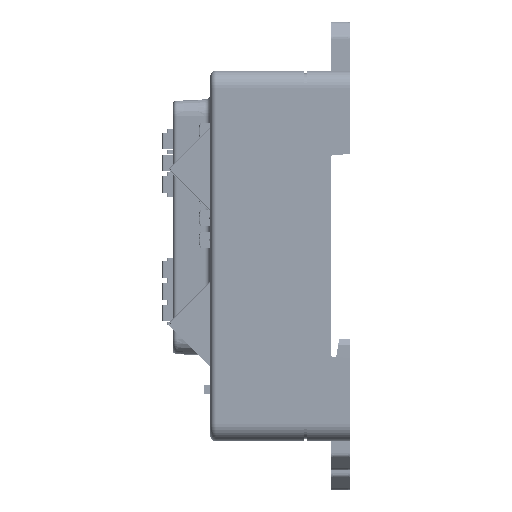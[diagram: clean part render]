
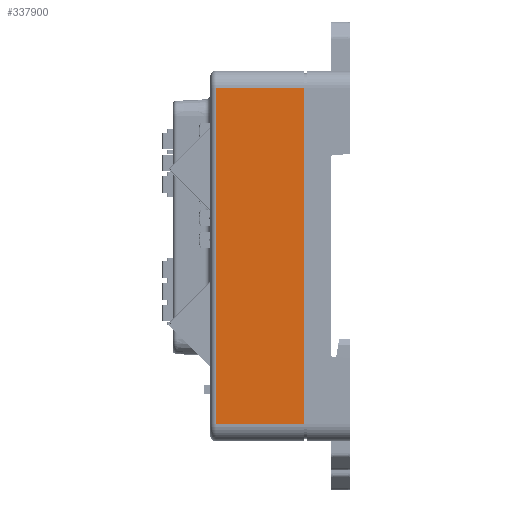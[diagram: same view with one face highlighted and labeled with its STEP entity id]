
A CAD part, left-side view. The second image highlights one B-rep face of the part: STEP entity #337900.
In plain terms, the highlighted planar face has unit normal (-1, 0, 0).
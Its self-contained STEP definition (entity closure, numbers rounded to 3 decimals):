
#6388=DIRECTION('',(0.,0.,-1.));
#6389=VECTOR('',#6388,59.);
#6390=CARTESIAN_POINT('',(-72.5,23.4,29.5));
#6391=LINE('',#6390,#6389);
#6392=DIRECTION('',(0.,-1.,0.));
#6393=VECTOR('',#6392,15.4);
#6394=CARTESIAN_POINT('',(-72.5,23.4,29.5));
#6395=LINE('',#6394,#6393);
#6396=DIRECTION('',(0.,0.,1.));
#6397=VECTOR('',#6396,59.);
#6398=CARTESIAN_POINT('',(-72.5,8.,-29.5));
#6399=LINE('',#6398,#6397);
#6415=DIRECTION('',(0.,-1.,0.));
#6416=VECTOR('',#6415,15.4);
#6417=CARTESIAN_POINT('',(-72.5,23.4,-29.5));
#6418=LINE('',#6417,#6416);
#262862=CARTESIAN_POINT('',(-72.5,8.,-29.5));
#262863=CARTESIAN_POINT('',(-72.5,8.,29.5));
#262864=VERTEX_POINT('',#262862);
#262865=VERTEX_POINT('',#262863);
#262952=CARTESIAN_POINT('',(-72.5,23.4,-29.5));
#262953=VERTEX_POINT('',#262952);
#262956=CARTESIAN_POINT('',(-72.5,23.4,29.5));
#262957=VERTEX_POINT('',#262956);
#337887=CARTESIAN_POINT('',(-72.5,7.,-32.5));
#337888=DIRECTION('',(-1.,0.,0.));
#337889=DIRECTION('',(0.,0.,1.));
#337890=AXIS2_PLACEMENT_3D('',#337887,#337888,#337889);
#337891=PLANE('',#337890);
#337893=ORIENTED_EDGE('',*,*,#337892,.F.);
#337894=ORIENTED_EDGE('',*,*,#337882,.T.);
#337895=ORIENTED_EDGE('',*,*,#337231,.F.);
#337897=ORIENTED_EDGE('',*,*,#337896,.F.);
#337898=EDGE_LOOP('',(#337893,#337894,#337895,#337897));
#337899=FACE_OUTER_BOUND('',#337898,.F.);
#337900=ADVANCED_FACE('',(#337899),#337891,.T.);
#337231=EDGE_CURVE('',#262864,#262865,#6399,.T.);
#337882=EDGE_CURVE('',#262957,#262865,#6395,.T.);
#337892=EDGE_CURVE('',#262957,#262953,#6391,.T.);
#337896=EDGE_CURVE('',#262953,#262864,#6418,.T.);
